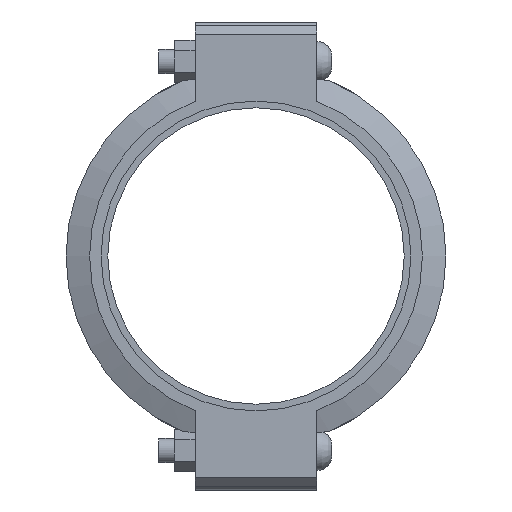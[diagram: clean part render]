
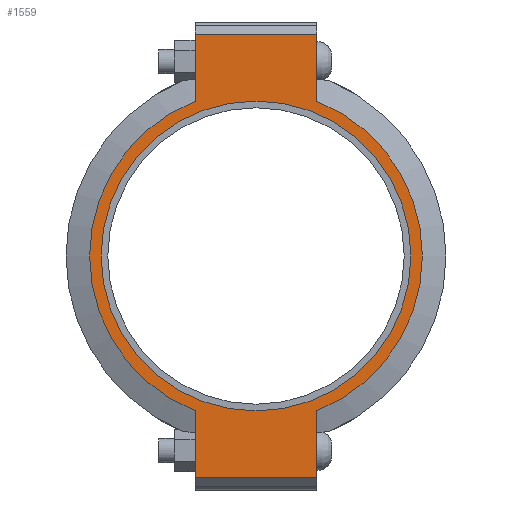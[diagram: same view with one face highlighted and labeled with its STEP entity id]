
A CAD part, left-side view. The second image highlights one B-rep face of the part: STEP entity #1559.
In plain terms, the highlighted planar face has unit normal (-1, 0, 0) as drawn and (0, 0, 1) by its records, which use the part's own axes.
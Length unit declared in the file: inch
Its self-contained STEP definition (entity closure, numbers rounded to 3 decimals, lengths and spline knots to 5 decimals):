
#186=LINE('',#2659,#273);
#197=LINE('',#2710,#284);
#203=LINE('',#2736,#290);
#205=LINE('',#2739,#292);
#206=LINE('',#2744,#293);
#207=LINE('',#2745,#294);
#273=VECTOR('',#2145,0.3937);
#284=VECTOR('',#2176,0.3937);
#290=VECTOR('',#2194,0.3937);
#292=VECTOR('',#2198,0.3937);
#293=VECTOR('',#2203,0.3937);
#294=VECTOR('',#2204,0.3937);
#352=FACE_BOUND('',#511,.T.);
#412=FACE_OUTER_BOUND('',#510,.T.);
#510=EDGE_LOOP('',(#1248,#1249,#1250,#1251,#1252,#1253,#1254,#1255));
#511=EDGE_LOOP('',(#1256));
#616=CIRCLE('',#1804,6.84375);
#617=CIRCLE('',#1805,6.84375);
#618=CIRCLE('',#1806,6.375);
#725=VERTEX_POINT('',#2656);
#726=VERTEX_POINT('',#2658);
#743=VERTEX_POINT('',#2705);
#744=VERTEX_POINT('',#2709);
#751=VERTEX_POINT('',#2731);
#752=VERTEX_POINT('',#2735);
#753=VERTEX_POINT('',#2741);
#754=VERTEX_POINT('',#2743);
#755=VERTEX_POINT('',#2747);
#895=EDGE_CURVE('',#726,#725,#186,.T.);
#916=EDGE_CURVE('',#744,#743,#197,.T.);
#927=EDGE_CURVE('',#752,#751,#203,.T.);
#929=EDGE_CURVE('',#752,#725,#205,.T.);
#930=EDGE_CURVE('',#751,#753,#616,.T.);
#931=EDGE_CURVE('',#753,#754,#206,.T.);
#932=EDGE_CURVE('',#744,#754,#207,.T.);
#933=EDGE_CURVE('',#743,#726,#617,.T.);
#934=EDGE_CURVE('',#755,#755,#618,.T.);
#1248=ORIENTED_EDGE('',*,*,#929,.F.);
#1249=ORIENTED_EDGE('',*,*,#927,.T.);
#1250=ORIENTED_EDGE('',*,*,#930,.T.);
#1251=ORIENTED_EDGE('',*,*,#931,.T.);
#1252=ORIENTED_EDGE('',*,*,#932,.F.);
#1253=ORIENTED_EDGE('',*,*,#916,.T.);
#1254=ORIENTED_EDGE('',*,*,#933,.T.);
#1255=ORIENTED_EDGE('',*,*,#895,.T.);
#1256=ORIENTED_EDGE('',*,*,#934,.T.);
#1411=PLANE('',#1803);
#1559=ADVANCED_FACE('',(#412,#352),#1411,.T.);
#1803=AXIS2_PLACEMENT_3D('',#2740,#2199,#2200);
#1804=AXIS2_PLACEMENT_3D('',#2742,#2201,#2202);
#1805=AXIS2_PLACEMENT_3D('',#2746,#2205,#2206);
#1806=AXIS2_PLACEMENT_3D('',#2748,#2207,#2208);
#2145=DIRECTION('',(-1.,0.,0.));
#2176=DIRECTION('',(-1.,0.,0.));
#2194=DIRECTION('',(1.,0.,0.));
#2198=DIRECTION('',(0.,1.,0.));
#2199=DIRECTION('center_axis',(0.,0.,1.));
#2200=DIRECTION('ref_axis',(1.,0.,0.));
#2201=DIRECTION('center_axis',(0.,0.,1.));
#2202=DIRECTION('ref_axis',(-1.,0.,0.));
#2203=DIRECTION('',(1.,0.,0.));
#2204=DIRECTION('',(0.,-1.,0.));
#2205=DIRECTION('center_axis',(0.,0.,1.));
#2206=DIRECTION('ref_axis',(-1.,0.,0.));
#2207=DIRECTION('center_axis',(0.,0.,-1.));
#2208=DIRECTION('ref_axis',(-1.,0.,0.));
#2656=CARTESIAN_POINT('',(-9.125,2.5,1.315));
#2658=CARTESIAN_POINT('',(-6.37079,2.5,1.315));
#2659=CARTESIAN_POINT('',(9.625,2.5,1.315));
#2705=CARTESIAN_POINT('',(6.37079,2.5,1.315));
#2709=CARTESIAN_POINT('',(9.125,2.5,1.315));
#2710=CARTESIAN_POINT('',(9.625,2.5,1.315));
#2731=CARTESIAN_POINT('',(-6.37079,-2.5,1.315));
#2735=CARTESIAN_POINT('',(-9.125,-2.5,1.315));
#2736=CARTESIAN_POINT('',(-9.625,-2.5,1.315));
#2739=CARTESIAN_POINT('',(-9.125,1.25,1.315));
#2740=CARTESIAN_POINT('Origin',(0.,0.,
1.315));
#2741=CARTESIAN_POINT('',(6.37079,-2.5,1.315));
#2742=CARTESIAN_POINT('Origin',(0.,0.,1.315));
#2743=CARTESIAN_POINT('',(9.125,-2.5,1.315));
#2744=CARTESIAN_POINT('',(-9.625,-2.5,1.315));
#2745=CARTESIAN_POINT('',(9.125,-1.25,1.315));
#2746=CARTESIAN_POINT('Origin',(0.,0.,1.315));
#2747=CARTESIAN_POINT('',(6.375,0.,1.315));
#2748=CARTESIAN_POINT('Origin',(0.,0.,1.315));
